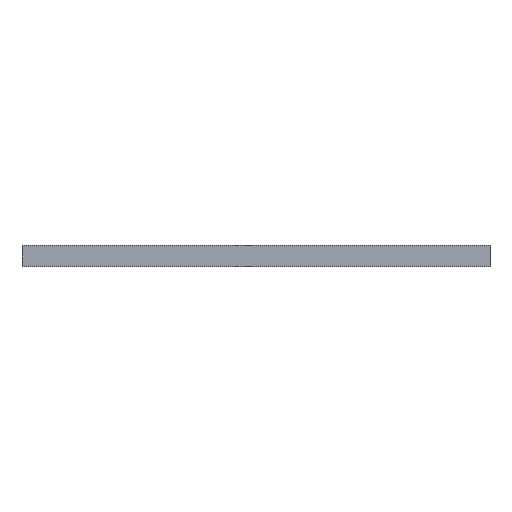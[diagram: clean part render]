
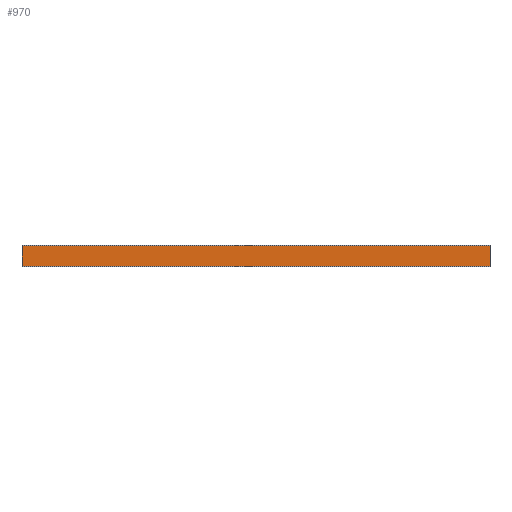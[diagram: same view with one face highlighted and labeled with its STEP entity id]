
A CAD part, top view. The second image highlights one B-rep face of the part: STEP entity #970.
In plain terms, the highlighted planar face has unit normal (0, 0, 1).
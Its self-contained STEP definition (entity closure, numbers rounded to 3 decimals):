
#72=FACE_OUTER_BOUND('',#122,.T.);
#122=EDGE_LOOP('',(#837,#838,#839,#840));
#244=LINE('',#1514,#376);
#245=LINE('',#1517,#377);
#246=LINE('',#1519,#378);
#247=LINE('',#1520,#379);
#376=VECTOR('',#1244,10.);
#377=VECTOR('',#1247,10.);
#378=VECTOR('',#1248,10.);
#379=VECTOR('',#1249,10.);
#470=VERTEX_POINT('',#1508);
#472=VERTEX_POINT('',#1512);
#473=VERTEX_POINT('',#1516);
#474=VERTEX_POINT('',#1518);
#596=EDGE_CURVE('',#470,#472,#244,.T.);
#597=EDGE_CURVE('',#470,#473,#245,.T.);
#598=EDGE_CURVE('',#474,#472,#246,.T.);
#599=EDGE_CURVE('',#473,#474,#247,.T.);
#837=ORIENTED_EDGE('',*,*,#597,.F.);
#838=ORIENTED_EDGE('',*,*,#596,.T.);
#839=ORIENTED_EDGE('',*,*,#598,.F.);
#840=ORIENTED_EDGE('',*,*,#599,.F.);
#920=PLANE('',#1042);
#970=ADVANCED_FACE('',(#72),#920,.T.);
#1042=AXIS2_PLACEMENT_3D('',#1515,#1245,#1246);
#1244=DIRECTION('',(1.,0.,0.));
#1245=DIRECTION('center_axis',(0.,0.,1.));
#1246=DIRECTION('ref_axis',(0.,-1.,0.));
#1247=DIRECTION('',(0.,1.,0.));
#1248=DIRECTION('',(0.,-1.,0.));
#1249=DIRECTION('',(1.,0.,0.));
#1508=CARTESIAN_POINT('',(0.,-22.,36.1));
#1512=CARTESIAN_POINT('',(1000.,-22.,36.1));
#1514=CARTESIAN_POINT('',(0.,-22.,36.1));
#1515=CARTESIAN_POINT('Origin',(0.,22.,36.1));
#1516=CARTESIAN_POINT('',(0.,22.,36.1));
#1517=CARTESIAN_POINT('',(0.,-22.,36.1));
#1518=CARTESIAN_POINT('',(1000.,22.,36.1));
#1519=CARTESIAN_POINT('',(1000.,-22.,36.1));
#1520=CARTESIAN_POINT('',(0.,22.,36.1));
